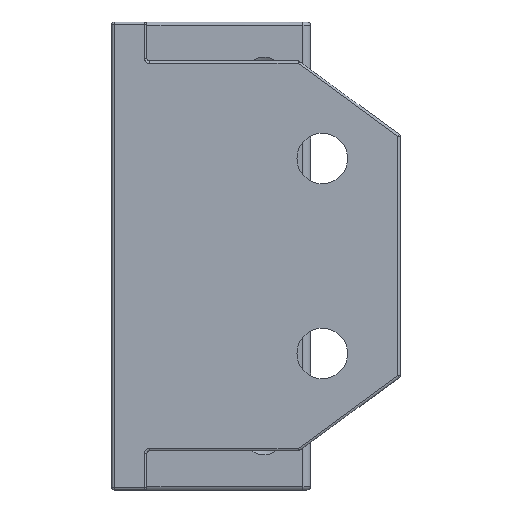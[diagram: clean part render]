
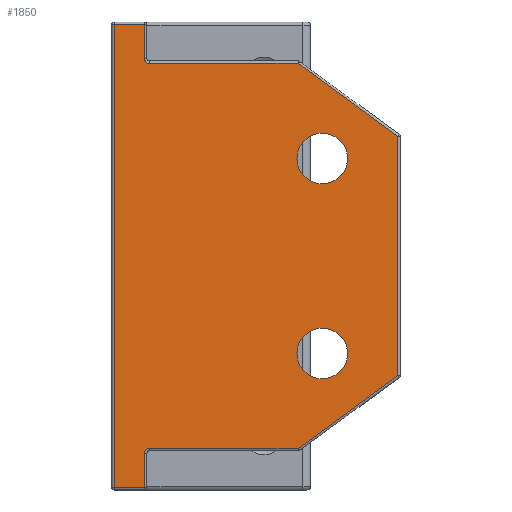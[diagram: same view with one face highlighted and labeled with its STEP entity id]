
A CAD part, front view. The second image highlights one B-rep face of the part: STEP entity #1850.
In plain terms, the highlighted planar face has unit normal (0, -1, 0).
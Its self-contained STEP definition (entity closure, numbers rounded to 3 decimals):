
#4 = LINE ( 'NONE', #7514, #7088 ) ;
#25 = EDGE_CURVE ( 'NONE', #7457, #2957, #2574, .T. ) ;
#47 = DIRECTION ( 'NONE',  ( 0., 0., 1. ) ) ;
#78 = LINE ( 'NONE', #160, #5325 ) ;
#130 = VERTEX_POINT ( 'NONE', #7559 ) ;
#157 = ORIENTED_EDGE ( 'NONE', *, *, #1495, .T. ) ;
#160 = CARTESIAN_POINT ( 'NONE',  ( -1.8, -32., 60. ) ) ;
#171 = CARTESIAN_POINT ( 'NONE',  ( -1.2, -32., 54.7 ) ) ;
#266 = VERTEX_POINT ( 'NONE', #4776 ) ;
#396 = VERTEX_POINT ( 'NONE', #8276 ) ;
#491 = CARTESIAN_POINT ( 'NONE',  ( -5.7, -32., 59.7 ) ) ;
#493 = VERTEX_POINT ( 'NONE', #7847 ) ;
#656 = LINE ( 'NONE', #6904, #5926 ) ;
#851 = VECTOR ( 'NONE', #1657, 1000. ) ;
#1033 = EDGE_LOOP ( 'NONE', ( #6639, #6356 ) ) ;
#1191 = ORIENTED_EDGE ( 'NONE', *, *, #8647, .T. ) ;
#1266 = CARTESIAN_POINT ( 'NONE',  ( -5.7, -32., 60. ) ) ;
#1348 = DIRECTION ( 'NONE',  ( 0., -1., 0. ) ) ;
#1366 = CARTESIAN_POINT ( 'NONE',  ( 21., -32., 17.5 ) ) ;
#1403 = DIRECTION ( 'NONE',  ( 0., 1., 0. ) ) ;
#1427 = DIRECTION ( 'NONE',  ( 0., 0., 1. ) ) ;
#1444 = VERTEX_POINT ( 'NONE', #7085 ) ;
#1484 = CARTESIAN_POINT ( 'NONE',  ( 21., -32., 42.5 ) ) ;
#1495 = EDGE_CURVE ( 'NONE', #7170, #1521, #5685, .T. ) ;
#1521 = VERTEX_POINT ( 'NONE', #8366 ) ;
#1657 = DIRECTION ( 'NONE',  ( 0., 0., 1. ) ) ;
#1765 = VERTEX_POINT ( 'NONE', #5944 ) ;
#1824 = EDGE_CURVE ( 'NONE', #493, #5627, #2033, .T. ) ;
#1831 = FACE_BOUND ( 'NONE', #5621, .T. ) ;
#1850 = ADVANCED_FACE ( 'NONE', ( #7287, #1831, #8864 ), #7422, .F. ) ;
#2005 = DIRECTION ( 'NONE',  ( 0.807, 0., 0.59 ) ) ;
#2014 = CARTESIAN_POINT ( 'NONE',  ( 17.902, -32., 5.3 ) ) ;
#2027 = ORIENTED_EDGE ( 'NONE', *, *, #7272, .T. ) ;
#2033 = LINE ( 'NONE', #5413, #3649 ) ;
#2034 = ORIENTED_EDGE ( 'NONE', *, *, #3378, .T. ) ;
#2041 = CARTESIAN_POINT ( 'NONE',  ( 30.823, -32., 14.742 ) ) ;
#2133 = EDGE_CURVE ( 'NONE', #266, #2603, #8104, .T. ) ;
#2187 = DIRECTION ( 'NONE',  ( 0., 0., 1. ) ) ;
#2198 = CARTESIAN_POINT ( 'NONE',  ( 21., -32., 17.5 ) ) ;
#2220 = EDGE_CURVE ( 'NONE', #396, #6314, #2243, .T. ) ;
#2243 = CIRCLE ( 'NONE', #3990, 3.25 ) ;
#2310 = CARTESIAN_POINT ( 'NONE',  ( -1.8, -32., 60. ) ) ;
#2398 = ORIENTED_EDGE ( 'NONE', *, *, #1824, .T. ) ;
#2424 = ORIENTED_EDGE ( 'NONE', *, *, #2133, .F. ) ;
#2505 = AXIS2_PLACEMENT_3D ( 'NONE', #5442, #1348, #6146 ) ;
#2572 = VECTOR ( 'NONE', #6729, 1000. ) ;
#2574 = CIRCLE ( 'NONE', #8034, 3.25 ) ;
#2603 = VERTEX_POINT ( 'NONE', #171 ) ;
#2691 = LINE ( 'NONE', #2310, #851 ) ;
#2880 = DIRECTION ( 'NONE',  ( 0., 0., 1. ) ) ;
#2951 = LINE ( 'NONE', #3982, #4961 ) ;
#2954 = CARTESIAN_POINT ( 'NONE',  ( -1.8, -32., 4.7 ) ) ;
#2957 = VERTEX_POINT ( 'NONE', #8196 ) ;
#2970 = EDGE_LOOP ( 'NONE', ( #2424, #7065, #8575, #157, #1191, #5936, #5866, #2398, #6524, #2027, #4221, #2034 ) ) ;
#3309 = AXIS2_PLACEMENT_3D ( 'NONE', #7511, #6138, #6103 ) ;
#3378 = EDGE_CURVE ( 'NONE', #1765, #2603, #656, .T. ) ;
#3415 = EDGE_CURVE ( 'NONE', #2957, #7457, #7741, .T. ) ;
#3417 = DIRECTION ( 'NONE',  ( 0., 0., 1. ) ) ;
#3447 = VECTOR ( 'NONE', #2005, 1000. ) ;
#3529 = DIRECTION ( 'NONE',  ( 0., 0., 1. ) ) ;
#3595 = ORIENTED_EDGE ( 'NONE', *, *, #3415, .T. ) ;
#3649 = VECTOR ( 'NONE', #5491, 1000. ) ;
#3822 = CARTESIAN_POINT ( 'NONE',  ( -1.2, -32., 55.3 ) ) ;
#3982 = CARTESIAN_POINT ( 'NONE',  ( 17.823, -32., 54.758 ) ) ;
#3990 = AXIS2_PLACEMENT_3D ( 'NONE', #1366, #1403, #1427 ) ;
#4089 = VERTEX_POINT ( 'NONE', #2954 ) ;
#4221 = ORIENTED_EDGE ( 'NONE', *, *, #5528, .T. ) ;
#4225 = CARTESIAN_POINT ( 'NONE',  ( 21., -32., 20.75 ) ) ;
#4323 = DIRECTION ( 'NONE',  ( 0., -1., 0. ) ) ;
#4358 = VECTOR ( 'NONE', #6671, 1000. ) ;
#4776 = CARTESIAN_POINT ( 'NONE',  ( -1.8, -32., 55.3 ) ) ;
#4961 = VECTOR ( 'NONE', #8758, 1000. ) ;
#5239 = ORIENTED_EDGE ( 'NONE', *, *, #25, .T. ) ;
#5269 = CARTESIAN_POINT ( 'NONE',  ( 0., -32., 0.3 ) ) ;
#5325 = VECTOR ( 'NONE', #3529, 1000. ) ;
#5349 = EDGE_CURVE ( 'NONE', #493, #4089, #8064, .T. ) ;
#5407 = AXIS2_PLACEMENT_3D ( 'NONE', #3822, #4323, #47 ) ;
#5413 = CARTESIAN_POINT ( 'NONE',  ( 18., -32., 5.3 ) ) ;
#5442 = CARTESIAN_POINT ( 'NONE',  ( -1.2, -32., 4.7 ) ) ;
#5455 = VERTEX_POINT ( 'NONE', #5622 ) ;
#5463 = LINE ( 'NONE', #2041, #3447 ) ;
#5491 = DIRECTION ( 'NONE',  ( 1., 0., 0. ) ) ;
#5528 = EDGE_CURVE ( 'NONE', #130, #1765, #2951, .T. ) ;
#5621 = EDGE_LOOP ( 'NONE', ( #5239, #3595 ) ) ;
#5622 = CARTESIAN_POINT ( 'NONE',  ( 30.7, -32., 14.652 ) ) ;
#5627 = VERTEX_POINT ( 'NONE', #2014 ) ;
#5683 = CARTESIAN_POINT ( 'NONE',  ( -1.8, -32., 59.7 ) ) ;
#5685 = LINE ( 'NONE', #1266, #6657 ) ;
#5752 = EDGE_CURVE ( 'NONE', #6314, #396, #8700, .T. ) ;
#5866 = ORIENTED_EDGE ( 'NONE', *, *, #5349, .F. ) ;
#5926 = VECTOR ( 'NONE', #6226, 1000. ) ;
#5936 = ORIENTED_EDGE ( 'NONE', *, *, #7537, .T. ) ;
#5944 = CARTESIAN_POINT ( 'NONE',  ( 17.902, -32., 54.7 ) ) ;
#6103 = DIRECTION ( 'NONE',  ( 0., 0., 1. ) ) ;
#6138 = DIRECTION ( 'NONE',  ( 0., 1., 0. ) ) ;
#6146 = DIRECTION ( 'NONE',  ( 0., 0., 1. ) ) ;
#6226 = DIRECTION ( 'NONE',  ( -1., 0., 0. ) ) ;
#6280 = DIRECTION ( 'NONE',  ( 0., 1., 0. ) ) ;
#6314 = VERTEX_POINT ( 'NONE', #4225 ) ;
#6356 = ORIENTED_EDGE ( 'NONE', *, *, #2220, .T. ) ;
#6378 = CARTESIAN_POINT ( 'NONE',  ( 21., -32., 45.75 ) ) ;
#6524 = ORIENTED_EDGE ( 'NONE', *, *, #7276, .T. ) ;
#6639 = ORIENTED_EDGE ( 'NONE', *, *, #5752, .T. ) ;
#6651 = LINE ( 'NONE', #6698, #2572 ) ;
#6657 = VECTOR ( 'NONE', #8558, 1000. ) ;
#6671 = DIRECTION ( 'NONE',  ( 1., 0., 0. ) ) ;
#6677 = EDGE_CURVE ( 'NONE', #8401, #7170, #6651, .T. ) ;
#6698 = CARTESIAN_POINT ( 'NONE',  ( -6., -32., 59.7 ) ) ;
#6729 = DIRECTION ( 'NONE',  ( -1., 0., 0. ) ) ;
#6904 = CARTESIAN_POINT ( 'NONE',  ( -1.5, -32., 54.7 ) ) ;
#6905 = AXIS2_PLACEMENT_3D ( 'NONE', #2198, #6990, #2880 ) ;
#6990 = DIRECTION ( 'NONE',  ( 0., 1., 0. ) ) ;
#7065 = ORIENTED_EDGE ( 'NONE', *, *, #8361, .T. ) ;
#7085 = CARTESIAN_POINT ( 'NONE',  ( -1.8, -32., 0.3 ) ) ;
#7088 = VECTOR ( 'NONE', #3417, 1000. ) ;
#7170 = VERTEX_POINT ( 'NONE', #491 ) ;
#7272 = EDGE_CURVE ( 'NONE', #5455, #130, #4, .T. ) ;
#7276 = EDGE_CURVE ( 'NONE', #5627, #5455, #5463, .T. ) ;
#7286 = AXIS2_PLACEMENT_3D ( 'NONE', #1484, #6280, #2187 ) ;
#7287 = FACE_OUTER_BOUND ( 'NONE', #2970, .T. ) ;
#7422 = PLANE ( 'NONE',  #3309 ) ;
#7457 = VERTEX_POINT ( 'NONE', #6378 ) ;
#7511 = CARTESIAN_POINT ( 'NONE',  ( 0., -32., 60. ) ) ;
#7514 = CARTESIAN_POINT ( 'NONE',  ( 30.7, -32., 60. ) ) ;
#7537 = EDGE_CURVE ( 'NONE', #1444, #4089, #2691, .T. ) ;
#7559 = CARTESIAN_POINT ( 'NONE',  ( 30.7, -32., 45.348 ) ) ;
#7741 = CIRCLE ( 'NONE', #7286, 3.25 ) ;
#7847 = CARTESIAN_POINT ( 'NONE',  ( -1.2, -32., 5.3 ) ) ;
#7998 = LINE ( 'NONE', #5269, #4358 ) ;
#8034 = AXIS2_PLACEMENT_3D ( 'NONE', #8761, #8795, #8818 ) ;
#8064 = CIRCLE ( 'NONE', #2505, 0.6 ) ;
#8104 = CIRCLE ( 'NONE', #5407, 0.6 ) ;
#8196 = CARTESIAN_POINT ( 'NONE',  ( 21., -32., 39.25 ) ) ;
#8276 = CARTESIAN_POINT ( 'NONE',  ( 21., -32., 14.25 ) ) ;
#8361 = EDGE_CURVE ( 'NONE', #266, #8401, #78, .T. ) ;
#8366 = CARTESIAN_POINT ( 'NONE',  ( -5.7, -32., 0.3 ) ) ;
#8401 = VERTEX_POINT ( 'NONE', #5683 ) ;
#8558 = DIRECTION ( 'NONE',  ( 0., 0., -1. ) ) ;
#8575 = ORIENTED_EDGE ( 'NONE', *, *, #6677, .T. ) ;
#8647 = EDGE_CURVE ( 'NONE', #1521, #1444, #7998, .T. ) ;
#8700 = CIRCLE ( 'NONE', #6905, 3.25 ) ;
#8758 = DIRECTION ( 'NONE',  ( -0.807, 0., 0.59 ) ) ;
#8761 = CARTESIAN_POINT ( 'NONE',  ( 21., -32., 42.5 ) ) ;
#8795 = DIRECTION ( 'NONE',  ( 0., 1., 0. ) ) ;
#8818 = DIRECTION ( 'NONE',  ( 0., 0., 1. ) ) ;
#8864 = FACE_BOUND ( 'NONE', #1033, .T. ) ;
